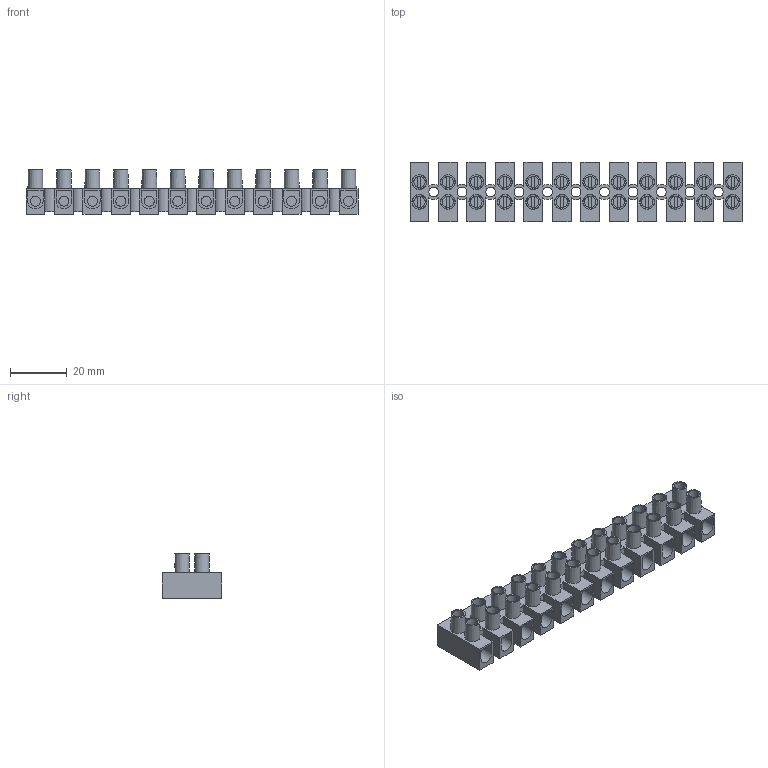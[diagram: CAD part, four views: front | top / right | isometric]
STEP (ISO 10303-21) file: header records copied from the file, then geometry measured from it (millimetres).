
FILE_DESCRIPTION(/* description */ ('Unknown'),/* implementation_level */ '2;1');
FILE_NAME(/* name */ 'MT 1106 TS',/* time_stamp */ '2021-10-08T09:54:01+02:00',/* author */ ('Unknown'),/* organization */ ('Unknown'),/* preprocessor_version */ 'ST-DEVELOPER v16.7',/* originating_system */ 'Solid Edge',/* authorisation */ 'Unknown');
FILE_SCHEMA (('AUTOMOTIVE_DESIGN {1 0 10303 214 3 1 1}'));
Length unit declared in the file: millimetre
Products named in the file (1): MT 1106 TS
Bounding box: 116.6 x 21 x 15.7 mm (x, y, z)
Volume: 11660.4 mm3; surface area: 18533.6 mm2
Topology: 1 solids, 1 shells, 536 faces, 1302 edges, 865 vertices
Faces by surface type: plane 407, cylinder 105, cone 24
Full cylindrical faces by diameter (mm): 3.4 x11, 3.5 x24, 4 x24
Entity records: 14902 total; most frequent: DIRECTION 2586, CARTESIAN_POINT 2525, ORIENTED_EDGE 2342, EDGE_CURVE 1171, AXIS2_PLACEMENT_3D 878, LINE 830, VECTOR 830, VERTEX_POINT 817
